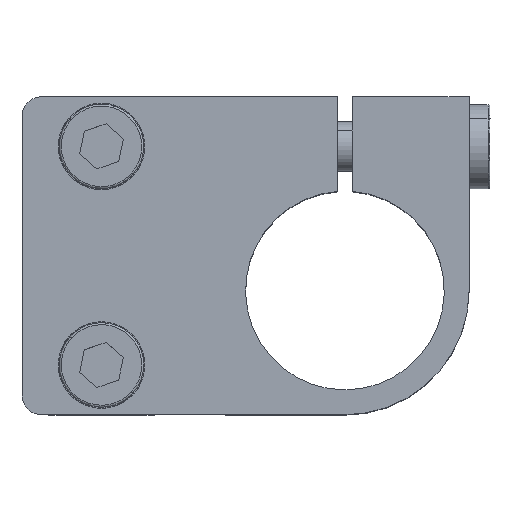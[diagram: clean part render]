
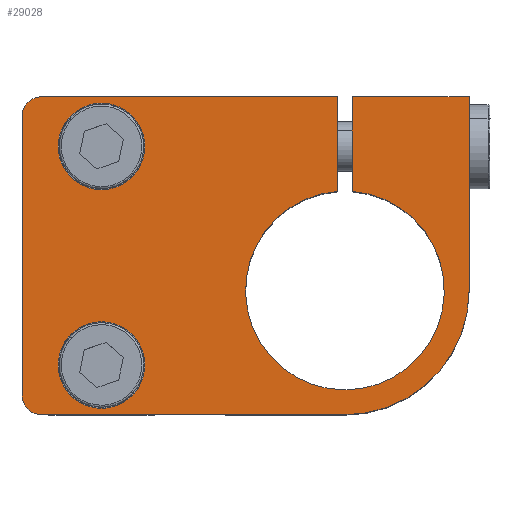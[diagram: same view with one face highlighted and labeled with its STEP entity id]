
A CAD part, top view. The second image highlights one B-rep face of the part: STEP entity #29028.
In plain terms, the highlighted planar face has unit normal (0, 0, 1).
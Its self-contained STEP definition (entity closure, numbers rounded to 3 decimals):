
#31 = AXIS2_PLACEMENT_3D ( 'NONE', #9361, #28467, #12095 ) ;
#336 = LINE ( 'NONE', #28001, #28483 ) ;
#352 = DIRECTION ( 'NONE',  ( 0., 0., 1. ) ) ;
#603 = CARTESIAN_POINT ( 'NONE',  ( -105.83, -4.978, 68.634 ) ) ;
#771 = CARTESIAN_POINT ( 'NONE',  ( -136.33, -2.978, 68.634 ) ) ;
#862 = VERTEX_POINT ( 'NONE', #18084 ) ;
#1360 = ORIENTED_EDGE ( 'NONE', *, *, #20699, .F. ) ;
#1646 = AXIS2_PLACEMENT_3D ( 'NONE', #8146, #27209, #10875 ) ;
#1743 = EDGE_CURVE ( 'NONE', #18921, #4108, #16665, .T. ) ;
#2137 = ORIENTED_EDGE ( 'NONE', *, *, #18377, .T. ) ;
#2376 = DIRECTION ( 'NONE',  ( 0., 1., 0. ) ) ;
#3080 = ORIENTED_EDGE ( 'NONE', *, *, #29839, .T. ) ;
#3548 = DIRECTION ( 'NONE',  ( 0., 1., 0. ) ) ;
#3767 = CARTESIAN_POINT ( 'NONE',  ( -106.58, 11.022, 68.634 ) ) ;
#3862 = CARTESIAN_POINT ( 'NONE',  ( -106.58, 17.494, 68.634 ) ) ;
#4108 = VERTEX_POINT ( 'NONE', #33461 ) ;
#4341 = ORIENTED_EDGE ( 'NONE', *, *, #26861, .T. ) ;
#4352 = VERTEX_POINT ( 'NONE', #21075 ) ;
#4835 = LINE ( 'NONE', #8560, #11166 ) ;
#4989 = CARTESIAN_POINT ( 'NONE',  ( -115.83, 27.022, 68.634 ) ) ;
#5344 = ORIENTED_EDGE ( 'NONE', *, *, #13912, .T. ) ;
#5538 = ORIENTED_EDGE ( 'NONE', *, *, #15732, .T. ) ;
#5596 = AXIS2_PLACEMENT_3D ( 'NONE', #771, #19820, #3548 ) ;
#5614 = ORIENTED_EDGE ( 'NONE', *, *, #32241, .T. ) ;
#5997 = VERTEX_POINT ( 'NONE', #603 ) ;
#6119 = ORIENTED_EDGE ( 'NONE', *, *, #28658, .T. ) ;
#6284 = EDGE_CURVE ( 'NONE', #4352, #20384, #21875, .T. ) ;
#6470 = CARTESIAN_POINT ( 'NONE',  ( -93.33, 7.522, 68.634 ) ) ;
#6784 = ORIENTED_EDGE ( 'NONE', *, *, #34961, .T. ) ;
#6884 = DIRECTION ( 'NONE',  ( 0., 0., 1. ) ) ;
#7273 = CARTESIAN_POINT ( 'NONE',  ( -130.33, 2.622, 68.634 ) ) ;
#7611 = LINE ( 'NONE', #17056, #21229 ) ;
#8146 = CARTESIAN_POINT ( 'NONE',  ( -136.33, 25.022, 68.634 ) ) ;
#8560 = CARTESIAN_POINT ( 'NONE',  ( -115.83, -4.978, 68.634 ) ) ;
#8580 = FACE_BOUND ( 'NONE', #18004, .T. ) ;
#8687 = ORIENTED_EDGE ( 'NONE', *, *, #30884, .T. ) ;
#8741 = VERTEX_POINT ( 'NONE', #3862 ) ;
#9056 = EDGE_LOOP ( 'NONE', ( #26556, #6119 ) ) ;
#9361 = CARTESIAN_POINT ( 'NONE',  ( -138.33, -4.978, 68.634 ) ) ;
#9401 = EDGE_LOOP ( 'NONE', ( #2137, #17876, #5538, #6784, #29799, #5344, #21056, #8687, #3080, #4341, #5614 ) ) ;
#9582 = VECTOR ( 'NONE', #22757, 1000. ) ;
#10351 = DIRECTION ( 'NONE',  ( 0., 0., -1. ) ) ;
#10360 = DIRECTION ( 'NONE',  ( 0., 0., 1. ) ) ;
#10875 = DIRECTION ( 'NONE',  ( 1., 0., 0. ) ) ;
#10901 = DIRECTION ( 'NONE',  ( -1., 0., 0. ) ) ;
#10965 = VECTOR ( 'NONE', #15760, 1000. ) ;
#11099 = CARTESIAN_POINT ( 'NONE',  ( -136.33, 27.022, 68.634 ) ) ;
#11164 = AXIS2_PLACEMENT_3D ( 'NONE', #26681, #10351, #29465 ) ;
#11166 = VECTOR ( 'NONE', #16897, 1000. ) ;
#11441 = CIRCLE ( 'NONE', #12858, 2.6 ) ;
#11461 = LINE ( 'NONE', #30114, #32389 ) ;
#11682 = CIRCLE ( 'NONE', #13917, 10. ) ;
#12015 = AXIS2_PLACEMENT_3D ( 'NONE', #23149, #6884, #25880 ) ;
#12095 = DIRECTION ( 'NONE',  ( 1., 0., 0. ) ) ;
#12670 = EDGE_CURVE ( 'NONE', #34583, #17899, #11441, .T. ) ;
#12858 = AXIS2_PLACEMENT_3D ( 'NONE', #16664, #352, #19393 ) ;
#12992 = VERTEX_POINT ( 'NONE', #18187 ) ;
#13622 = DIRECTION ( 'NONE',  ( 0., 0., -1. ) ) ;
#13912 = EDGE_CURVE ( 'NONE', #5997, #15144, #30845, .T. ) ;
#13917 = AXIS2_PLACEMENT_3D ( 'NONE', #29976, #13622, #32698 ) ;
#14731 = PLANE ( 'NONE',  #31 ) ;
#15089 = EDGE_CURVE ( 'NONE', #15144, #15930, #7611, .T. ) ;
#15144 = VERTEX_POINT ( 'NONE', #6470 ) ;
#15732 = EDGE_CURVE ( 'NONE', #4108, #33532, #336, .T. ) ;
#15760 = DIRECTION ( 'NONE',  ( 0., -1., 0. ) ) ;
#15850 = CIRCLE ( 'NONE', #11164, 2.6 ) ;
#15930 = VERTEX_POINT ( 'NONE', #16758 ) ;
#16664 = CARTESIAN_POINT ( 'NONE',  ( -130.33, 0.022, 68.634 ) ) ;
#16665 = CIRCLE ( 'NONE', #1646, 2. ) ;
#16758 = CARTESIAN_POINT ( 'NONE',  ( -93.33, 27.022, 68.634 ) ) ;
#16897 = DIRECTION ( 'NONE',  ( 1., 0., 0. ) ) ;
#17056 = CARTESIAN_POINT ( 'NONE',  ( -93.33, 11.022, 68.634 ) ) ;
#17876 = ORIENTED_EDGE ( 'NONE', *, *, #1743, .T. ) ;
#17899 = VERTEX_POINT ( 'NONE', #30751 ) ;
#18004 = EDGE_LOOP ( 'NONE', ( #28267, #1360 ) ) ;
#18084 = CARTESIAN_POINT ( 'NONE',  ( -136.33, -4.978, 68.634 ) ) ;
#18187 = CARTESIAN_POINT ( 'NONE',  ( -106.58, 27.022, 68.634 ) ) ;
#18226 = LINE ( 'NONE', #29130, #10965 ) ;
#18377 = EDGE_CURVE ( 'NONE', #12992, #18921, #11461, .T. ) ;
#18665 = CARTESIAN_POINT ( 'NONE',  ( -138.33, -2.978, 68.634 ) ) ;
#18678 = DIRECTION ( 'NONE',  ( 0., 0., -1. ) ) ;
#18921 = VERTEX_POINT ( 'NONE', #11099 ) ;
#18971 = VERTEX_POINT ( 'NONE', #27816 ) ;
#19393 = DIRECTION ( 'NONE',  ( 0., 1., 0. ) ) ;
#19820 = DIRECTION ( 'NONE',  ( 0., 0., 1. ) ) ;
#20384 = VERTEX_POINT ( 'NONE', #22612 ) ;
#20699 = EDGE_CURVE ( 'NONE', #17899, #34583, #30682, .T. ) ;
#21056 = ORIENTED_EDGE ( 'NONE', *, *, #15089, .T. ) ;
#21075 = CARTESIAN_POINT ( 'NONE',  ( -130.33, 24.622, 68.634 ) ) ;
#21229 = VECTOR ( 'NONE', #33579, 1000. ) ;
#21875 = CIRCLE ( 'NONE', #33940, 2.6 ) ;
#22193 = FACE_BOUND ( 'NONE', #9056, .T. ) ;
#22612 = CARTESIAN_POINT ( 'NONE',  ( -130.33, 19.422, 68.634 ) ) ;
#22757 = DIRECTION ( 'NONE',  ( 0., 1., 0. ) ) ;
#22902 = CARTESIAN_POINT ( 'NONE',  ( -105.08, 27.022, 68.634 ) ) ;
#23149 = CARTESIAN_POINT ( 'NONE',  ( -105.83, 7.522, 68.634 ) ) ;
#23171 = EDGE_CURVE ( 'NONE', #862, #5997, #4835, .T. ) ;
#23925 = AXIS2_PLACEMENT_3D ( 'NONE', #26690, #10360, #29475 ) ;
#24050 = LINE ( 'NONE', #3767, #9582 ) ;
#25880 = DIRECTION ( 'NONE',  ( 0., 1., 0. ) ) ;
#26556 = ORIENTED_EDGE ( 'NONE', *, *, #6284, .T. ) ;
#26597 = VERTEX_POINT ( 'NONE', #22902 ) ;
#26681 = CARTESIAN_POINT ( 'NONE',  ( -130.33, 22.022, 68.634 ) ) ;
#26690 = CARTESIAN_POINT ( 'NONE',  ( -130.33, 0.022, 68.634 ) ) ;
#26861 = EDGE_CURVE ( 'NONE', #18971, #8741, #11682, .T. ) ;
#27209 = DIRECTION ( 'NONE',  ( 0., 0., 1. ) ) ;
#27816 = CARTESIAN_POINT ( 'NONE',  ( -105.08, 17.494, 68.634 ) ) ;
#28001 = CARTESIAN_POINT ( 'NONE',  ( -138.33, 11.022, 68.634 ) ) ;
#28267 = ORIENTED_EDGE ( 'NONE', *, *, #12670, .F. ) ;
#28467 = DIRECTION ( 'NONE',  ( 0., 0., 1. ) ) ;
#28483 = VECTOR ( 'NONE', #30619, 1000. ) ;
#28658 = EDGE_CURVE ( 'NONE', #20384, #4352, #15850, .T. ) ;
#29028 = ADVANCED_FACE ( 'NONE', ( #22193, #8580, #30357 ), #14731, .T. ) ;
#29130 = CARTESIAN_POINT ( 'NONE',  ( -105.08, 11.022, 68.634 ) ) ;
#29465 = DIRECTION ( 'NONE',  ( 0., 1., 0. ) ) ;
#29475 = DIRECTION ( 'NONE',  ( 0., 1., 0. ) ) ;
#29799 = ORIENTED_EDGE ( 'NONE', *, *, #23171, .T. ) ;
#29839 = EDGE_CURVE ( 'NONE', #26597, #18971, #18226, .T. ) ;
#29976 = CARTESIAN_POINT ( 'NONE',  ( -105.83, 7.522, 68.634 ) ) ;
#30114 = CARTESIAN_POINT ( 'NONE',  ( -115.83, 27.022, 68.634 ) ) ;
#30286 = VECTOR ( 'NONE', #34837, 1000. ) ;
#30357 = FACE_OUTER_BOUND ( 'NONE', #9401, .T. ) ;
#30619 = DIRECTION ( 'NONE',  ( 0., -1., 0. ) ) ;
#30682 = CIRCLE ( 'NONE', #23925, 2.6 ) ;
#30751 = CARTESIAN_POINT ( 'NONE',  ( -130.33, -2.578, 68.634 ) ) ;
#30845 = CIRCLE ( 'NONE', #12015, 12.5 ) ;
#30884 = EDGE_CURVE ( 'NONE', #15930, #26597, #31156, .T. ) ;
#31156 = LINE ( 'NONE', #4989, #30286 ) ;
#32092 = CIRCLE ( 'NONE', #5596, 2. ) ;
#32241 = EDGE_CURVE ( 'NONE', #8741, #12992, #24050, .T. ) ;
#32389 = VECTOR ( 'NONE', #10901, 1000. ) ;
#32698 = DIRECTION ( 'NONE',  ( 0., 1., 0. ) ) ;
#33461 = CARTESIAN_POINT ( 'NONE',  ( -138.33, 25.022, 68.634 ) ) ;
#33532 = VERTEX_POINT ( 'NONE', #18665 ) ;
#33579 = DIRECTION ( 'NONE',  ( 0., 1., 0. ) ) ;
#33940 = AXIS2_PLACEMENT_3D ( 'NONE', #35001, #18678, #2376 ) ;
#34583 = VERTEX_POINT ( 'NONE', #7273 ) ;
#34837 = DIRECTION ( 'NONE',  ( -1., 0., 0. ) ) ;
#34961 = EDGE_CURVE ( 'NONE', #33532, #862, #32092, .T. ) ;
#35001 = CARTESIAN_POINT ( 'NONE',  ( -130.33, 22.022, 68.634 ) ) ;
